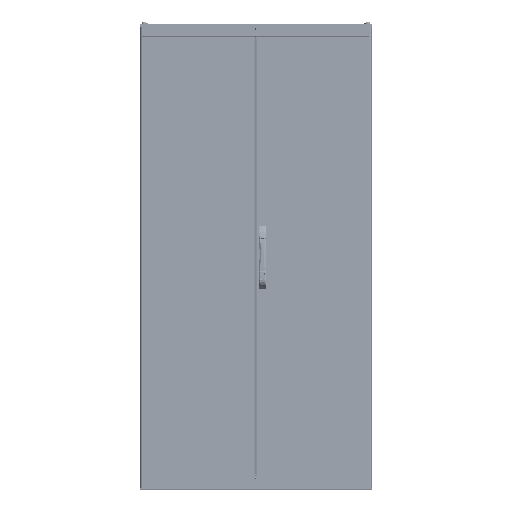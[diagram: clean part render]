
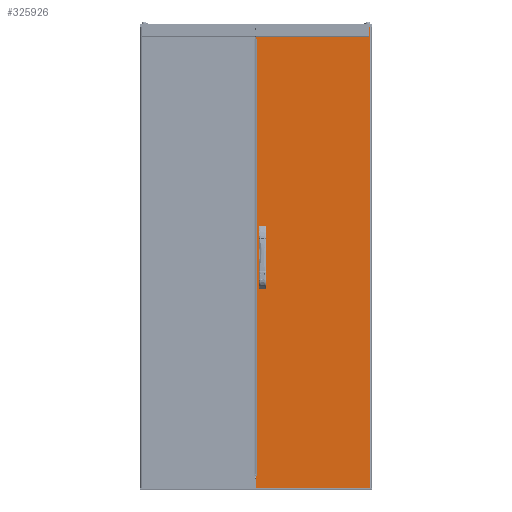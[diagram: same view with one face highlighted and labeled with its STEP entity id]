
A CAD part, top view. The second image highlights one B-rep face of the part: STEP entity #325926.
In plain terms, the highlighted planar face has unit normal (0, 0, 1) as drawn and (0, -1, 0) by its records, which use the part's own axes.
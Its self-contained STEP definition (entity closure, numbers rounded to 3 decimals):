
#902 = VECTOR ( 'NONE', #382770, 1000. ) ;
#3085 = CARTESIAN_POINT ( 'NONE',  ( 0., 0., -31.25 ) ) ;
#3805 = CARTESIAN_POINT ( 'NONE',  ( 1106.497, 0., -24.15 ) ) ;
#5579 = EDGE_LOOP ( 'NONE', ( #229815, #8289 ) ) ;
#8289 = ORIENTED_EDGE ( 'NONE', *, *, #137199, .F. ) ;
#10410 = VERTEX_POINT ( 'NONE', #345906 ) ;
#10715 = ORIENTED_EDGE ( 'NONE', *, *, #295566, .F. ) ;
#18758 = AXIS2_PLACEMENT_3D ( 'NONE', #392175, #394213, #398289 ) ;
#27808 = EDGE_CURVE ( 'NONE', #202588, #250982, #62638, .T. ) ;
#30042 = ORIENTED_EDGE ( 'NONE', *, *, #124412, .F. ) ;
#31119 = CARTESIAN_POINT ( 'NONE',  ( 50.78, 0., -1.51 ) ) ;
#33703 = AXIS2_PLACEMENT_3D ( 'NONE', #55574, #180191, #240387 ) ;
#34148 = VERTEX_POINT ( 'NONE', #153895 ) ;
#35295 = LINE ( 'NONE', #197153, #405450 ) ;
#39220 = CARTESIAN_POINT ( 'NONE',  ( 876.493, 0., -24.15 ) ) ;
#41818 = VERTEX_POINT ( 'NONE', #3805 ) ;
#45475 = EDGE_CURVE ( 'NONE', #65802, #206448, #375315, .T. ) ;
#45718 = AXIS2_PLACEMENT_3D ( 'NONE', #338493, #151731, #216008 ) ;
#46137 = EDGE_LOOP ( 'NONE', ( #10715, #271904 ) ) ;
#47266 = FACE_OUTER_BOUND ( 'NONE', #337077, .T. ) ;
#50227 = EDGE_CURVE ( 'NONE', #10410, #65802, #334069, .T. ) ;
#51358 = FACE_BOUND ( 'NONE', #46137, .T. ) ;
#51770 = DIRECTION ( 'NONE',  ( 0., 0., -1. ) ) ;
#53478 = DIRECTION ( 'NONE',  ( 1., 0., 0. ) ) ;
#55574 = CARTESIAN_POINT ( 'NONE',  ( 876.493, 0., -27. ) ) ;
#57509 = ORIENTED_EDGE ( 'NONE', *, *, #27808, .F. ) ;
#62638 = LINE ( 'NONE', #189317, #73773 ) ;
#63085 = CARTESIAN_POINT ( 'NONE',  ( 0., 0., 0. ) ) ;
#65802 = VERTEX_POINT ( 'NONE', #137889 ) ;
#66309 = CARTESIAN_POINT ( 'NONE',  ( 1106.497, 0., -29.85 ) ) ;
#69937 = ORIENTED_EDGE ( 'NONE', *, *, #146784, .T. ) ;
#70204 = DIRECTION ( 'NONE',  ( 0., 0., 1. ) ) ;
#73773 = VECTOR ( 'NONE', #321947, 1000. ) ;
#75909 = EDGE_CURVE ( 'NONE', #374549, #218792, #160850, .T. ) ;
#76229 = VECTOR ( 'NONE', #344200, 1000. ) ;
#78859 = CARTESIAN_POINT ( 'NONE',  ( 1932.21, 0., -489. ) ) ;
#101375 = LINE ( 'NONE', #134589, #308061 ) ;
#103488 = EDGE_CURVE ( 'NONE', #218792, #405559, #214619, .T. ) ;
#107671 = LINE ( 'NONE', #136773, #369142 ) ;
#108321 = AXIS2_PLACEMENT_3D ( 'NONE', #206905, #171659, #200788 ) ;
#114997 = CARTESIAN_POINT ( 'NONE',  ( 958.745, 0., -31.25 ) ) ;
#117791 = DIRECTION ( 'NONE',  ( 0., 0., -1. ) ) ;
#120119 = EDGE_LOOP ( 'NONE', ( #30042, #204365, #205833, #129002 ) ) ;
#121210 = ORIENTED_EDGE ( 'NONE', *, *, #151179, .F. ) ;
#124412 = EDGE_CURVE ( 'NONE', #252370, #374549, #373124, .T. ) ;
#126141 = VERTEX_POINT ( 'NONE', #39220 ) ;
#129002 = ORIENTED_EDGE ( 'NONE', *, *, #75909, .F. ) ;
#133895 = EDGE_CURVE ( 'NONE', #202588, #378343, #292701, .T. ) ;
#134589 = CARTESIAN_POINT ( 'NONE',  ( 50.78, 0., -489. ) ) ;
#134843 = DIRECTION ( 'NONE',  ( -1., 0., 0. ) ) ;
#134944 = CARTESIAN_POINT ( 'NONE',  ( 50.78, 0., 0. ) ) ;
#136773 = CARTESIAN_POINT ( 'NONE',  ( 0., 0., 0. ) ) ;
#137199 = EDGE_CURVE ( 'NONE', #206542, #41818, #263719, .T. ) ;
#137889 = CARTESIAN_POINT ( 'NONE',  ( 1932.21, 0., -1.51 ) ) ;
#139493 = VERTEX_POINT ( 'NONE', #63085 ) ;
#145111 = LINE ( 'NONE', #209415, #288126 ) ;
#145204 = DIRECTION ( 'NONE',  ( 0., -1., 0. ) ) ;
#146784 = EDGE_CURVE ( 'NONE', #206448, #189885, #101375, .T. ) ;
#151179 = EDGE_CURVE ( 'NONE', #10410, #378343, #145111, .T. ) ;
#151731 = DIRECTION ( 'NONE',  ( 0., -1., 0. ) ) ;
#153895 = CARTESIAN_POINT ( 'NONE',  ( 876.493, 0., -29.85 ) ) ;
#158420 = CIRCLE ( 'NONE', #45718, 2.85 ) ;
#160850 = LINE ( 'NONE', #3085, #902 ) ;
#171659 = DIRECTION ( 'NONE',  ( 0., -1., 0. ) ) ;
#174044 = DIRECTION ( 'NONE',  ( 0., 0., 1. ) ) ;
#178415 = EDGE_CURVE ( 'NONE', #405559, #252370, #35295, .T. ) ;
#180060 = FACE_BOUND ( 'NONE', #120119, .T. ) ;
#180191 = DIRECTION ( 'NONE',  ( 0., -1., 0. ) ) ;
#184117 = ORIENTED_EDGE ( 'NONE', *, *, #221081, .F. ) ;
#189317 = CARTESIAN_POINT ( 'NONE',  ( 0., 0., -489. ) ) ;
#189885 = VERTEX_POINT ( 'NONE', #134944 ) ;
#197153 = CARTESIAN_POINT ( 'NONE',  ( 0., 0., -22.75 ) ) ;
#199844 = AXIS2_PLACEMENT_3D ( 'NONE', #363095, #145204, #400332 ) ;
#200788 = DIRECTION ( 'NONE',  ( 0., 0., -1. ) ) ;
#202588 = VERTEX_POINT ( 'NONE', #346628 ) ;
#204365 = ORIENTED_EDGE ( 'NONE', *, *, #178415, .F. ) ;
#205833 = ORIENTED_EDGE ( 'NONE', *, *, #103488, .F. ) ;
#206448 = VERTEX_POINT ( 'NONE', #31119 ) ;
#206542 = VERTEX_POINT ( 'NONE', #66309 ) ;
#206905 = CARTESIAN_POINT ( 'NONE',  ( 958.745, 0., -27. ) ) ;
#209415 = CARTESIAN_POINT ( 'NONE',  ( 0., 0., 0. ) ) ;
#213234 = DIRECTION ( 'NONE',  ( 0., -1., 0. ) ) ;
#214619 = CIRCLE ( 'NONE', #333678, 4.25 ) ;
#216008 = DIRECTION ( 'NONE',  ( 0., 0., -1. ) ) ;
#218792 = VERTEX_POINT ( 'NONE', #407059 ) ;
#221081 = EDGE_CURVE ( 'NONE', #250982, #139493, #107671, .T. ) ;
#229815 = ORIENTED_EDGE ( 'NONE', *, *, #388468, .F. ) ;
#238330 = CARTESIAN_POINT ( 'NONE',  ( 0., 0., 0. ) ) ;
#238571 = VECTOR ( 'NONE', #363151, 1000. ) ;
#240387 = DIRECTION ( 'NONE',  ( 0., 0., -1. ) ) ;
#250982 = VERTEX_POINT ( 'NONE', #309737 ) ;
#252370 = VERTEX_POINT ( 'NONE', #368445 ) ;
#253686 = AXIS2_PLACEMENT_3D ( 'NONE', #333660, #339816, #304581 ) ;
#263719 = CIRCLE ( 'NONE', #18758, 2.85 ) ;
#271904 = ORIENTED_EDGE ( 'NONE', *, *, #305954, .F. ) ;
#273408 = CARTESIAN_POINT ( 'NONE',  ( 1024.245, 0., -27. ) ) ;
#288126 = VECTOR ( 'NONE', #369114, 1000. ) ;
#292701 = LINE ( 'NONE', #325907, #238571 ) ;
#295566 = EDGE_CURVE ( 'NONE', #126141, #34148, #398511, .T. ) ;
#304581 = DIRECTION ( 'NONE',  ( 0., 0., -1. ) ) ;
#305346 = CIRCLE ( 'NONE', #33703, 2.85 ) ;
#305954 = EDGE_CURVE ( 'NONE', #34148, #126141, #305346, .T. ) ;
#306616 = PLANE ( 'NONE',  #253686 ) ;
#308061 = VECTOR ( 'NONE', #70204, 1000. ) ;
#309737 = CARTESIAN_POINT ( 'NONE',  ( 0., 0., -489. ) ) ;
#319351 = ORIENTED_EDGE ( 'NONE', *, *, #50227, .T. ) ;
#321337 = EDGE_CURVE ( 'NONE', #139493, #189885, #333754, .T. ) ;
#321801 = CARTESIAN_POINT ( 'NONE',  ( 1024.245, 0., -22.75 ) ) ;
#321947 = DIRECTION ( 'NONE',  ( -1., 0., 0. ) ) ;
#325907 = CARTESIAN_POINT ( 'NONE',  ( 1982.99, 0., -489. ) ) ;
#325926 = ADVANCED_FACE ( 'NONE', ( #180060, #337755, #51358, #47266 ), #306616, .T. ) ;
#333660 = CARTESIAN_POINT ( 'NONE',  ( 0., 0., -489. ) ) ;
#333678 = AXIS2_PLACEMENT_3D ( 'NONE', #273408, #213234, #117791 ) ;
#333754 = LINE ( 'NONE', #238330, #376720 ) ;
#334069 = LINE ( 'NONE', #78859, #409169 ) ;
#336242 = CARTESIAN_POINT ( 'NONE',  ( 1982.99, 0., 0. ) ) ;
#337077 = EDGE_LOOP ( 'NONE', ( #121210, #319351, #349054, #69937, #344827, #184117, #57509, #367817 ) ) ;
#337755 = FACE_BOUND ( 'NONE', #5579, .T. ) ;
#338493 = CARTESIAN_POINT ( 'NONE',  ( 1106.497, 0., -27. ) ) ;
#339816 = DIRECTION ( 'NONE',  ( 0., -1., 0. ) ) ;
#342163 = CARTESIAN_POINT ( 'NONE',  ( 1932.21, 0., -1.51 ) ) ;
#344200 = DIRECTION ( 'NONE',  ( -1., 0., 0. ) ) ;
#344827 = ORIENTED_EDGE ( 'NONE', *, *, #321337, .F. ) ;
#345906 = CARTESIAN_POINT ( 'NONE',  ( 1932.21, 0., 0. ) ) ;
#346628 = CARTESIAN_POINT ( 'NONE',  ( 1982.99, 0., -489. ) ) ;
#349054 = ORIENTED_EDGE ( 'NONE', *, *, #45475, .T. ) ;
#363095 = CARTESIAN_POINT ( 'NONE',  ( 876.493, 0., -27. ) ) ;
#363151 = DIRECTION ( 'NONE',  ( 0., 0., 1. ) ) ;
#367817 = ORIENTED_EDGE ( 'NONE', *, *, #133895, .T. ) ;
#368445 = CARTESIAN_POINT ( 'NONE',  ( 958.745, 0., -22.75 ) ) ;
#369114 = DIRECTION ( 'NONE',  ( 1., 0., 0. ) ) ;
#369142 = VECTOR ( 'NONE', #174044, 1000. ) ;
#373124 = CIRCLE ( 'NONE', #108321, 4.25 ) ;
#374549 = VERTEX_POINT ( 'NONE', #114997 ) ;
#375315 = LINE ( 'NONE', #342163, #76229 ) ;
#376720 = VECTOR ( 'NONE', #53478, 1000. ) ;
#378343 = VERTEX_POINT ( 'NONE', #336242 ) ;
#382770 = DIRECTION ( 'NONE',  ( 1., 0., 0. ) ) ;
#388468 = EDGE_CURVE ( 'NONE', #41818, #206542, #158420, .T. ) ;
#392175 = CARTESIAN_POINT ( 'NONE',  ( 1106.497, 0., -27. ) ) ;
#394213 = DIRECTION ( 'NONE',  ( 0., -1., 0. ) ) ;
#398289 = DIRECTION ( 'NONE',  ( 0., 0., -1. ) ) ;
#398511 = CIRCLE ( 'NONE', #199844, 2.85 ) ;
#400332 = DIRECTION ( 'NONE',  ( 0., 0., -1. ) ) ;
#405450 = VECTOR ( 'NONE', #134843, 1000. ) ;
#405559 = VERTEX_POINT ( 'NONE', #321801 ) ;
#407059 = CARTESIAN_POINT ( 'NONE',  ( 1024.245, 0., -31.25 ) ) ;
#409169 = VECTOR ( 'NONE', #51770, 1000. ) ;
